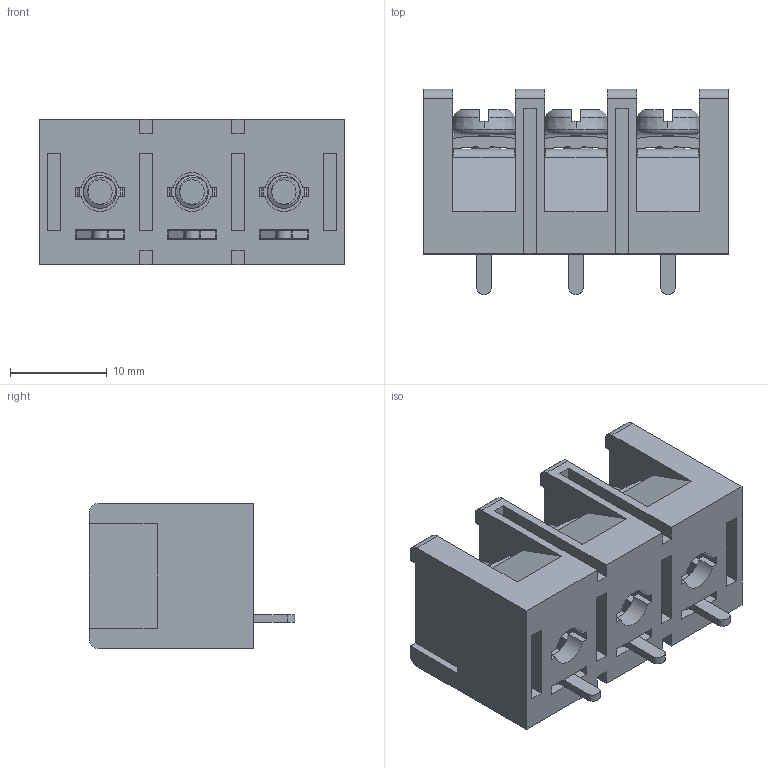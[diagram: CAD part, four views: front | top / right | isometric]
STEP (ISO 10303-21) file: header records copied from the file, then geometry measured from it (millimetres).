
FILE_DESCRIPTION((''),'2;1');
FILE_NAME('3PIN','2021-05-08T',('hanke'),(''),'CREO PARAMETRIC BY PTC INC, 2016260','CREO PARAMETRIC BY PTC INC, 2016260','');
FILE_SCHEMA(('CONFIG_CONTROL_DESIGN'));
Products named in the file (1): 3PIN
Bounding box: 31.5 x 21.2 x 15 mm (x, y, z)
Volume: 4443.5 mm3; surface area: 6454.1 mm2
Topology: 1 solids, 1 shells, 1069 faces, 3144 edges, 2048 vertices
Faces by surface type: plane 692, cylinder 251, bspline 84, cone 24, torus 18
Entity records: 48952 total; most frequent: CARTESIAN_POINT 21519, ORIENTED_EDGE 6276, DIRECTION 5010, EDGE_CURVE 3138, VERTEX_POINT 2048, VECTOR 1988, LINE 1988, AXIS2_PLACEMENT_3D 1511
